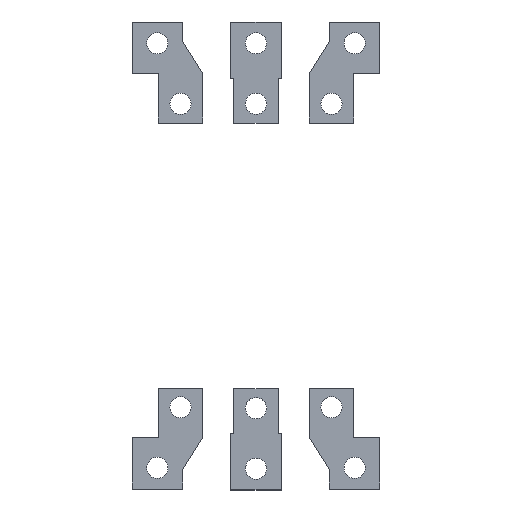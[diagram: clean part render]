
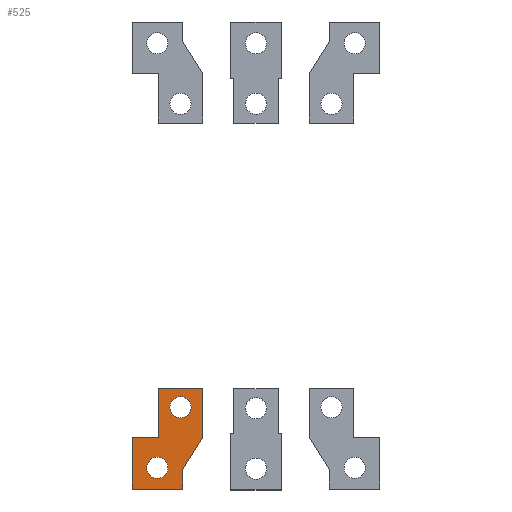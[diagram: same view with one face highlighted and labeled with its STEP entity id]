
A CAD part, top view. The second image highlights one B-rep face of the part: STEP entity #525.
In plain terms, the highlighted planar face has unit normal (0, 0, 1).
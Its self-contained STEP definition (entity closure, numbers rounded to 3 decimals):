
#17 = DIRECTION ( 'NONE',  ( 0., 1., 0. ) ) ;
#57 = CARTESIAN_POINT ( 'NONE',  ( -32.09, -75.05, 27.5 ) ) ;
#59 = EDGE_CURVE ( 'NONE', #2464, #2582, #3569, .T. ) ;
#63 = LINE ( 'NONE', #3909, #3209 ) ;
#146 = VERTEX_POINT ( 'NONE', #1198 ) ;
#152 = LINE ( 'NONE', #456, #2721 ) ;
#182 = CARTESIAN_POINT ( 'NONE',  ( -26.34, -90.05, 27.5 ) ) ;
#248 = ORIENTED_EDGE ( 'NONE', *, *, #59, .F. ) ;
#283 = DIRECTION ( 'NONE',  ( 0., 0., 1. ) ) ;
#308 = EDGE_CURVE ( 'NONE', #1042, #1926, #1686, .T. ) ;
#357 = AXIS2_PLACEMENT_3D ( 'NONE', #3686, #2180, #592 ) ;
#378 = EDGE_LOOP ( 'NONE', ( #1261, #248 ) ) ;
#437 = PLANE ( 'NONE',  #1831 ) ;
#440 = VERTEX_POINT ( 'NONE', #2821 ) ;
#456 = CARTESIAN_POINT ( 'NONE',  ( -48.34, -90.05, 27.5 ) ) ;
#463 = ORIENTED_EDGE ( 'NONE', *, *, #1207, .T. ) ;
#483 = EDGE_CURVE ( 'NONE', #1593, #495, #2362, .T. ) ;
#487 = CARTESIAN_POINT ( 'NONE',  ( -48.34, -90.05, 27.5 ) ) ;
#495 = VERTEX_POINT ( 'NONE', #2284 ) ;
#496 = CIRCLE ( 'NONE', #357, 5.25 ) ;
#519 = CARTESIAN_POINT ( 'NONE',  ( -26.34, -90.05, 27.5 ) ) ;
#525 = ADVANCED_FACE ( 'NONE', ( #2082, #2133, #2497 ), #437, .T. ) ;
#592 = DIRECTION ( 'NONE',  ( 1., 0., 0. ) ) ;
#661 = CARTESIAN_POINT ( 'NONE',  ( -61.34, -90.05, 27.5 ) ) ;
#677 = VECTOR ( 'NONE', #1530, 1000. ) ;
#706 = CIRCLE ( 'NONE', #1138, 5.25 ) ;
#761 = DIRECTION ( 'NONE',  ( -1., 0., 0. ) ) ;
#841 = DIRECTION ( 'NONE',  ( 1., 0., 0. ) ) ;
#1024 = CARTESIAN_POINT ( 'NONE',  ( -48.34, -65.55, 27.5 ) ) ;
#1042 = VERTEX_POINT ( 'NONE', #2701 ) ;
#1043 = DIRECTION ( 'NONE',  ( 0., 1., 0. ) ) ;
#1046 = EDGE_CURVE ( 'NONE', #1458, #3332, #63, .T. ) ;
#1138 = AXIS2_PLACEMENT_3D ( 'NONE', #3614, #283, #1493 ) ;
#1171 = ORIENTED_EDGE ( 'NONE', *, *, #3119, .T. ) ;
#1198 = CARTESIAN_POINT ( 'NONE',  ( -54.09, -105.05, 27.5 ) ) ;
#1207 = EDGE_CURVE ( 'NONE', #1926, #3669, #152, .T. ) ;
#1261 = ORIENTED_EDGE ( 'NONE', *, *, #3500, .F. ) ;
#1272 = CARTESIAN_POINT ( 'NONE',  ( -26.34, -65.55, 27.5 ) ) ;
#1309 = CIRCLE ( 'NONE', #3064, 5.25 ) ;
#1340 = CARTESIAN_POINT ( 'NONE',  ( -36.34, -115.55, 27.5 ) ) ;
#1422 = EDGE_CURVE ( 'NONE', #3669, #1872, #3188, .T. ) ;
#1458 = VERTEX_POINT ( 'NONE', #1340 ) ;
#1475 = VECTOR ( 'NONE', #1043, 1000. ) ;
#1484 = DIRECTION ( 'NONE',  ( 0., 0., 1. ) ) ;
#1486 = ORIENTED_EDGE ( 'NONE', *, *, #3140, .F. ) ;
#1493 = DIRECTION ( 'NONE',  ( 1., 0., 0. ) ) ;
#1530 = DIRECTION ( 'NONE',  ( -1., 0., 0. ) ) ;
#1586 = ORIENTED_EDGE ( 'NONE', *, *, #2508, .T. ) ;
#1588 = DIRECTION ( 'NONE',  ( 1., 0., 0. ) ) ;
#1593 = VERTEX_POINT ( 'NONE', #182 ) ;
#1686 = LINE ( 'NONE', #1024, #3334 ) ;
#1757 = CARTESIAN_POINT ( 'NONE',  ( -48.84, -105.05, 27.5 ) ) ;
#1831 = AXIS2_PLACEMENT_3D ( 'NONE', #3462, #2254, #2269 ) ;
#1872 = VERTEX_POINT ( 'NONE', #2043 ) ;
#1910 = VECTOR ( 'NONE', #2793, 1000. ) ;
#1926 = VERTEX_POINT ( 'NONE', #487 ) ;
#1966 = DIRECTION ( 'NONE',  ( 0., -1., 0. ) ) ;
#2038 = ORIENTED_EDGE ( 'NONE', *, *, #3041, .F. ) ;
#2043 = CARTESIAN_POINT ( 'NONE',  ( -61.34, -115.55, 27.5 ) ) ;
#2063 = ORIENTED_EDGE ( 'NONE', *, *, #1422, .T. ) ;
#2082 = FACE_BOUND ( 'NONE', #3383, .T. ) ;
#2133 = FACE_BOUND ( 'NONE', #378, .T. ) ;
#2180 = DIRECTION ( 'NONE',  ( 0., 0., 1. ) ) ;
#2195 = CARTESIAN_POINT ( 'NONE',  ( -61.34, -115.55, 27.5 ) ) ;
#2254 = DIRECTION ( 'NONE',  ( 0., 0., 1. ) ) ;
#2257 = EDGE_LOOP ( 'NONE', ( #3380, #463, #2063, #1586, #2286, #3526, #3725, #1171 ) ) ;
#2269 = DIRECTION ( 'NONE',  ( 1., 0., 0. ) ) ;
#2277 = LINE ( 'NONE', #519, #3399 ) ;
#2284 = CARTESIAN_POINT ( 'NONE',  ( -26.34, -65.55, 27.5 ) ) ;
#2286 = ORIENTED_EDGE ( 'NONE', *, *, #1046, .T. ) ;
#2320 = EDGE_CURVE ( 'NONE', #3332, #1593, #2277, .T. ) ;
#2359 = AXIS2_PLACEMENT_3D ( 'NONE', #3882, #3860, #841 ) ;
#2362 = LINE ( 'NONE', #2848, #1475 ) ;
#2464 = VERTEX_POINT ( 'NONE', #3366 ) ;
#2497 = FACE_OUTER_BOUND ( 'NONE', #2257, .T. ) ;
#2508 = EDGE_CURVE ( 'NONE', #1872, #1458, #3543, .T. ) ;
#2582 = VERTEX_POINT ( 'NONE', #57 ) ;
#2701 = CARTESIAN_POINT ( 'NONE',  ( -48.34, -65.55, 27.5 ) ) ;
#2703 = DIRECTION ( 'NONE',  ( 0.53, 0.848, 0. ) ) ;
#2721 = VECTOR ( 'NONE', #761, 1000. ) ;
#2793 = DIRECTION ( 'NONE',  ( 0., -1., 0. ) ) ;
#2821 = CARTESIAN_POINT ( 'NONE',  ( -43.59, -105.05, 27.5 ) ) ;
#2848 = CARTESIAN_POINT ( 'NONE',  ( -26.34, -65.55, 27.5 ) ) ;
#2982 = CARTESIAN_POINT ( 'NONE',  ( -36.34, -106.05, 27.5 ) ) ;
#3041 = EDGE_CURVE ( 'NONE', #440, #146, #1309, .T. ) ;
#3064 = AXIS2_PLACEMENT_3D ( 'NONE', #1757, #1484, #3888 ) ;
#3119 = EDGE_CURVE ( 'NONE', #495, #1042, #3724, .T. ) ;
#3140 = EDGE_CURVE ( 'NONE', #146, #440, #496, .T. ) ;
#3188 = LINE ( 'NONE', #661, #1910 ) ;
#3209 = VECTOR ( 'NONE', #17, 1000. ) ;
#3332 = VERTEX_POINT ( 'NONE', #2982 ) ;
#3334 = VECTOR ( 'NONE', #1966, 1000. ) ;
#3366 = CARTESIAN_POINT ( 'NONE',  ( -42.59, -75.05, 27.5 ) ) ;
#3380 = ORIENTED_EDGE ( 'NONE', *, *, #308, .T. ) ;
#3383 = EDGE_LOOP ( 'NONE', ( #2038, #1486 ) ) ;
#3399 = VECTOR ( 'NONE', #2703, 1000. ) ;
#3462 = CARTESIAN_POINT ( 'NONE',  ( -48.34, -115.55, 27.5 ) ) ;
#3500 = EDGE_CURVE ( 'NONE', #2582, #2464, #706, .T. ) ;
#3526 = ORIENTED_EDGE ( 'NONE', *, *, #2320, .T. ) ;
#3543 = LINE ( 'NONE', #2195, #3842 ) ;
#3569 = CIRCLE ( 'NONE', #2359, 5.25 ) ;
#3614 = CARTESIAN_POINT ( 'NONE',  ( -37.34, -75.05, 27.5 ) ) ;
#3669 = VERTEX_POINT ( 'NONE', #3947 ) ;
#3686 = CARTESIAN_POINT ( 'NONE',  ( -48.84, -105.05, 27.5 ) ) ;
#3724 = LINE ( 'NONE', #1272, #677 ) ;
#3725 = ORIENTED_EDGE ( 'NONE', *, *, #483, .T. ) ;
#3842 = VECTOR ( 'NONE', #1588, 1000. ) ;
#3860 = DIRECTION ( 'NONE',  ( 0., 0., 1. ) ) ;
#3882 = CARTESIAN_POINT ( 'NONE',  ( -37.34, -75.05, 27.5 ) ) ;
#3888 = DIRECTION ( 'NONE',  ( 1., 0., 0. ) ) ;
#3909 = CARTESIAN_POINT ( 'NONE',  ( -36.34, -115.55, 27.5 ) ) ;
#3947 = CARTESIAN_POINT ( 'NONE',  ( -61.34, -90.05, 27.5 ) ) ;
